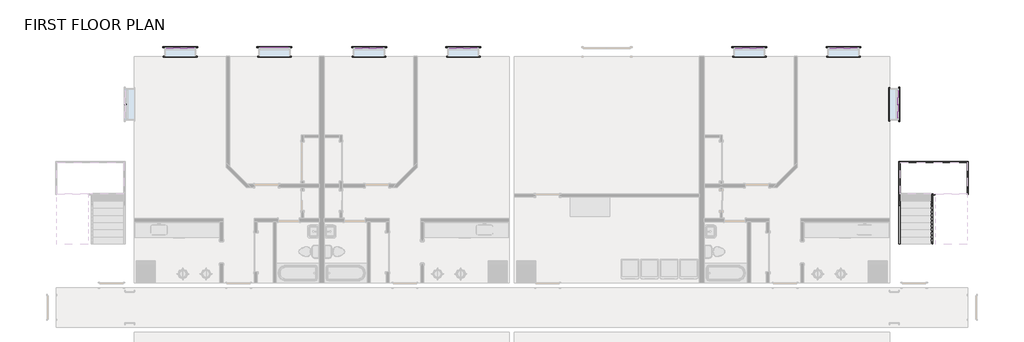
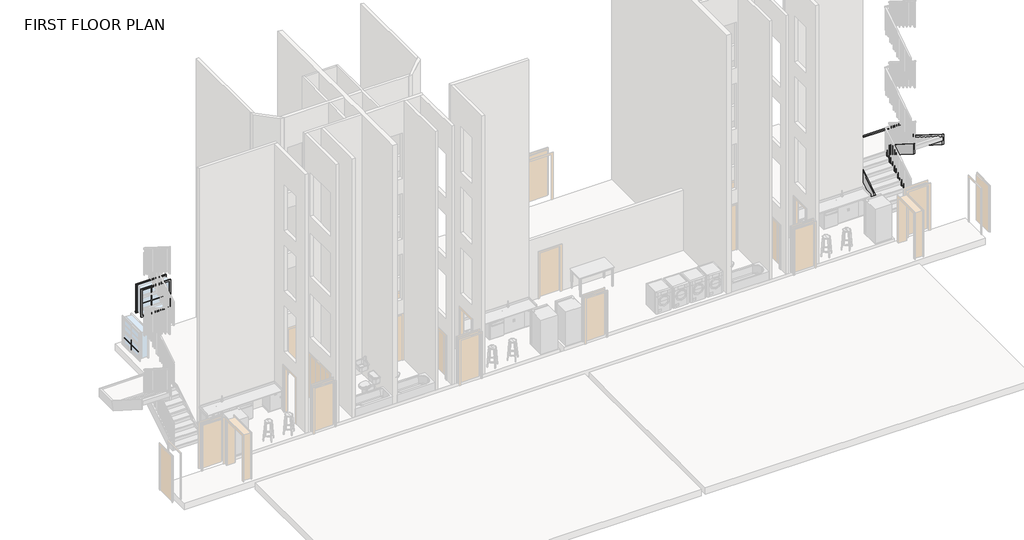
# One storey, part 7 of 7: 29 proxies, 8 members.
"""IFC4 building model written with IfcOpenShell, lengths in millimetres."""

from ifc_helpers import new_model, si_unit, frame, origin, place, context, project, spatial, polyline, outline, extrude, faceted_brep, transform, mapped, element, save
from components import muntin_pattern_2x2_muntin_pattern_2x2_c44f4804, muntin_pattern_2x2_muntin_pattern_2x2_05dfa543, muntin_pattern_2x2_muntin_pattern_2x2_770224b8, muntin_pattern_2x2_muntin_pattern_2x2_cf99dd86, trim_window_exterior_flat_with_sill_7cfdd449, trim_window_exterior_flat_with_sill_ac84ebb5, trim_window_interior_flat_picture_frame_f1e0b15b, trim_window_interior_flat_picture_frame_caf2db4f

model = new_model("IFC4")

# Units and contexts
model_context = context("Model", 3, world=origin())
ifc_project = project(units=[si_unit("LENGTHUNIT", "METRE", prefix="MILLI")], contexts=[model_context])

# Site, building, storey
site = spatial("IfcSite", under=ifc_project)
building = spatial("IfcBuilding", under=site)
storey = spatial("IfcBuildingStorey", under=building, Name="FIRST FLOOR PLAN", Elevation=0.0)

# Proxies
placement = place(None, origin())
muntin_pattern_2x2_muntin_pattern_2x2_shape = muntin_pattern_2x2_muntin_pattern_2x2_c44f4804(model_context)
element("IfcBuildingElementProxy", 1, Name="Muntin Pattern_2x2 : Muntin Pattern_2x2", ObjectType="Muntin Pattern_2x2 : Muntin Pattern_2x2", at=placement, inside=storey, context=model_context, shape_type="MappedRepresentation", body=[
    mapped(muntin_pattern_2x2_muntin_pattern_2x2_shape, transform((-3399.0477625, 15644.6887881, 1593.85), x_axis=(1.0, 0.0, 0.0), y_axis=(0.0, 1.0, 0.0), z_axis=(0.0, 0.0, 1.0))),
])
element("IfcBuildingElementProxy", 2, Name="Muntin Pattern_2x2 : Muntin Pattern_2x2", ObjectType="Muntin Pattern_2x2 : Muntin Pattern_2x2", at=placement, inside=storey, context=model_context, shape_type="MappedRepresentation", body=[
    mapped(muntin_pattern_2x2_muntin_pattern_2x2_shape, transform((271.9647375, 15644.6887881, 1593.85), x_axis=(1.0, 0.0, 0.0), y_axis=(0.0, 1.0, 0.0), z_axis=(0.0, 0.0, 1.0))),
])
muntin_pattern_2x2_muntin_pattern_2x2_2_shape = muntin_pattern_2x2_muntin_pattern_2x2_05dfa543(model_context)
element("IfcBuildingElementProxy", 3, Name="Muntin Pattern_2x2 : Muntin Pattern_2x2", ObjectType="Muntin Pattern_2x2 : Muntin Pattern_2x2", at=placement, inside=storey, context=model_context, shape_type="MappedRepresentation", body=[
    mapped(muntin_pattern_2x2_muntin_pattern_2x2_2_shape, transform((-5537.3665125, 13431.007194, 984.25), x_axis=(0.0, 1.0, 0.0), y_axis=(-1.0, 0.0, 0.0), z_axis=(0.0, 0.0, 1.0))),
])
element("IfcBuildingElementProxy", 4, Name="Muntin Pattern_2x2 : Muntin Pattern_2x2", ObjectType="Muntin Pattern_2x2 : Muntin Pattern_2x2", at=placement, inside=storey, context=model_context, shape_type="MappedRepresentation", body=[
    mapped(muntin_pattern_2x2_muntin_pattern_2x2_2_shape, transform((-3399.0477625, 15644.6887881, 984.25), x_axis=(1.0, 0.0, 0.0), y_axis=(0.0, 1.0, 0.0), z_axis=(0.0, 0.0, 1.0))),
])
element("IfcBuildingElementProxy", 5, Name="Muntin Pattern_2x2 : Muntin Pattern_2x2", ObjectType="Muntin Pattern_2x2 : Muntin Pattern_2x2", at=placement, inside=storey, context=model_context, shape_type="MappedRepresentation", body=[
    mapped(muntin_pattern_2x2_muntin_pattern_2x2_2_shape, transform((271.9647375, 15644.6887881, 984.25), x_axis=(1.0, 0.0, 0.0), y_axis=(0.0, 1.0, 0.0), z_axis=(0.0, 0.0, 1.0))),
])
muntin_pattern_2x2_muntin_pattern_2x2_3_shape = muntin_pattern_2x2_muntin_pattern_2x2_770224b8(model_context)
element("IfcBuildingElementProxy", 6, Name="Muntin Pattern_2x2 : Muntin Pattern_2x2", ObjectType="Muntin Pattern_2x2 : Muntin Pattern_2x2", at=placement, inside=storey, context=model_context, shape_type="MappedRepresentation", body=[
    mapped(muntin_pattern_2x2_muntin_pattern_2x2_3_shape, transform((7635.6647375, 15644.6887881, 1593.85), x_axis=(-1.0, 0.0, 0.0), y_axis=(0.0, -1.0, 0.0), z_axis=(0.0, 0.0, 1.0))),
])
element("IfcBuildingElementProxy", 7, Name="Muntin Pattern_2x2 : Muntin Pattern_2x2", ObjectType="Muntin Pattern_2x2 : Muntin Pattern_2x2", at=placement, inside=storey, context=model_context, shape_type="MappedRepresentation", body=[
    mapped(muntin_pattern_2x2_muntin_pattern_2x2_3_shape, transform((3964.6522375, 15644.6887881, 1593.85), x_axis=(-1.0, 0.0, 0.0), y_axis=(0.0, -1.0, 0.0), z_axis=(0.0, 0.0, 1.0))),
])
element("IfcBuildingElementProxy", 8, Name="Muntin Pattern_2x2 : Muntin Pattern_2x2", ObjectType="Muntin Pattern_2x2 : Muntin Pattern_2x2", at=placement, inside=storey, context=model_context, shape_type="MappedRepresentation", body=[
    mapped(muntin_pattern_2x2_muntin_pattern_2x2_3_shape, transform((24597.5834875, 13431.007194, 1593.85), x_axis=(0.0, 1.0, 0.0), y_axis=(-1.0, 0.0, 0.0), z_axis=(0.0, 0.0, 1.0))),
])
element("IfcBuildingElementProxy", 9, Name="Muntin Pattern_2x2 : Muntin Pattern_2x2", ObjectType="Muntin Pattern_2x2 : Muntin Pattern_2x2", at=placement, inside=storey, context=model_context, shape_type="MappedRepresentation", body=[
    mapped(muntin_pattern_2x2_muntin_pattern_2x2_3_shape, transform((22460.0647375, 15644.6887881, 1593.85), x_axis=(-1.0, 0.0, 0.0), y_axis=(0.0, -1.0, 0.0), z_axis=(0.0, 0.0, 1.0))),
])
element("IfcBuildingElementProxy", 10, Name="Muntin Pattern_2x2 : Muntin Pattern_2x2", ObjectType="Muntin Pattern_2x2 : Muntin Pattern_2x2", at=placement, inside=storey, context=model_context, shape_type="MappedRepresentation", body=[
    mapped(muntin_pattern_2x2_muntin_pattern_2x2_3_shape, transform((18789.0522375, 15644.6887881, 1593.85), x_axis=(-1.0, 0.0, 0.0), y_axis=(0.0, -1.0, 0.0), z_axis=(0.0, 0.0, 1.0))),
])
muntin_pattern_2x2_muntin_pattern_2x2_4_shape = muntin_pattern_2x2_muntin_pattern_2x2_cf99dd86(model_context)
element("IfcBuildingElementProxy", 11, Name="Muntin Pattern_2x2 : Muntin Pattern_2x2", ObjectType="Muntin Pattern_2x2 : Muntin Pattern_2x2", at=placement, inside=storey, context=model_context, shape_type="MappedRepresentation", body=[
    mapped(muntin_pattern_2x2_muntin_pattern_2x2_4_shape, transform((7635.6647375, 15644.6887881, 984.25), x_axis=(-1.0, 0.0, 0.0), y_axis=(0.0, -1.0, 0.0), z_axis=(0.0, 0.0, 1.0))),
])
element("IfcBuildingElementProxy", 12, Name="Muntin Pattern_2x2 : Muntin Pattern_2x2", ObjectType="Muntin Pattern_2x2 : Muntin Pattern_2x2", at=placement, inside=storey, context=model_context, shape_type="MappedRepresentation", body=[
    mapped(muntin_pattern_2x2_muntin_pattern_2x2_4_shape, transform((3964.6522375, 15644.6887881, 984.25), x_axis=(-1.0, 0.0, 0.0), y_axis=(0.0, -1.0, 0.0), z_axis=(0.0, 0.0, 1.0))),
])
element("IfcBuildingElementProxy", 13, Name="Muntin Pattern_2x2 : Muntin Pattern_2x2", ObjectType="Muntin Pattern_2x2 : Muntin Pattern_2x2", at=placement, inside=storey, context=model_context, shape_type="MappedRepresentation", body=[
    mapped(muntin_pattern_2x2_muntin_pattern_2x2_4_shape, transform((24597.5834875, 13431.007194, 984.25), x_axis=(0.0, 1.0, 0.0), y_axis=(-1.0, 0.0, 0.0), z_axis=(0.0, 0.0, 1.0))),
])
element("IfcBuildingElementProxy", 14, Name="Muntin Pattern_2x2 : Muntin Pattern_2x2", ObjectType="Muntin Pattern_2x2 : Muntin Pattern_2x2", at=placement, inside=storey, context=model_context, shape_type="MappedRepresentation", body=[
    mapped(muntin_pattern_2x2_muntin_pattern_2x2_4_shape, transform((22460.0647375, 15644.6887881, 984.25), x_axis=(-1.0, 0.0, 0.0), y_axis=(0.0, -1.0, 0.0), z_axis=(0.0, 0.0, 1.0))),
])
element("IfcBuildingElementProxy", 15, Name="Muntin Pattern_2x2 : Muntin Pattern_2x2", ObjectType="Muntin Pattern_2x2 : Muntin Pattern_2x2", at=placement, inside=storey, context=model_context, shape_type="MappedRepresentation", body=[
    mapped(muntin_pattern_2x2_muntin_pattern_2x2_4_shape, transform((18789.0522375, 15644.6887881, 984.25), x_axis=(-1.0, 0.0, 0.0), y_axis=(0.0, -1.0, 0.0), z_axis=(0.0, 0.0, 1.0))),
])
trim_window_exterior_flat_with_sill_shape = trim_window_exterior_flat_with_sill_7cfdd449(model_context)
element("IfcBuildingElementProxy", 16, Name="Trim-Window-Exterior-Flat : with Sill", ObjectType="Trim-Window-Exterior-Flat : with Sill", at=placement, inside=storey, context=model_context, shape_type="MappedRepresentation", body=[
    mapped(trim_window_exterior_flat_with_sill_shape, transform((-3399.0477625, 15654.2137881, 2133.6), x_axis=(-1.0, 0.0, 0.0), y_axis=(0.0, 0.0, 1.0), z_axis=(0.0, 1.0, 0.0))),
])
element("IfcBuildingElementProxy", 17, Name="Trim-Window-Exterior-Flat : with Sill", ObjectType="Trim-Window-Exterior-Flat : with Sill", at=placement, inside=storey, context=model_context, shape_type="MappedRepresentation", body=[
    mapped(trim_window_exterior_flat_with_sill_shape, transform((271.9647375, 15654.2137881, 2133.6), x_axis=(-1.0, 0.0, 0.0), y_axis=(0.0, 0.0, 1.0), z_axis=(0.0, 1.0, 0.0))),
])
trim_window_exterior_flat_with_sill_2_shape = trim_window_exterior_flat_with_sill_ac84ebb5(model_context)
element("IfcBuildingElementProxy", 18, Name="Trim-Window-Exterior-Flat : with Sill", ObjectType="Trim-Window-Exterior-Flat : with Sill", at=placement, inside=storey, context=model_context, shape_type="MappedRepresentation", body=[
    mapped(trim_window_exterior_flat_with_sill_2_shape, transform((7635.6647375, 15654.2137881, 2133.6), x_axis=(1.0, 0.0, 0.0), y_axis=(0.0, 0.0, -1.0), z_axis=(0.0, 1.0, 0.0))),
])
element("IfcBuildingElementProxy", 19, Name="Trim-Window-Exterior-Flat : with Sill", ObjectType="Trim-Window-Exterior-Flat : with Sill", at=placement, inside=storey, context=model_context, shape_type="MappedRepresentation", body=[
    mapped(trim_window_exterior_flat_with_sill_2_shape, transform((3964.6522375, 15654.2137881, 2133.6), x_axis=(1.0, 0.0, 0.0), y_axis=(0.0, 0.0, -1.0), z_axis=(0.0, 1.0, 0.0))),
])
element("IfcBuildingElementProxy", 20, Name="Trim-Window-Exterior-Flat : with Sill", ObjectType="Trim-Window-Exterior-Flat : with Sill", at=placement, inside=storey, context=model_context, shape_type="MappedRepresentation", body=[
    mapped(trim_window_exterior_flat_with_sill_2_shape, transform((24607.1084875, 13431.007194, 2133.6), x_axis=(0.0, -1.0, 0.0), y_axis=(0.0, 0.0, -1.0), z_axis=(1.0, 0.0, 0.0))),
])
element("IfcBuildingElementProxy", 21, Name="Trim-Window-Exterior-Flat : with Sill", ObjectType="Trim-Window-Exterior-Flat : with Sill", at=placement, inside=storey, context=model_context, shape_type="MappedRepresentation", body=[
    mapped(trim_window_exterior_flat_with_sill_2_shape, transform((22460.0647375, 15654.2137881, 2133.6), x_axis=(1.0, 0.0, 0.0), y_axis=(0.0, 0.0, -1.0), z_axis=(0.0, 1.0, 0.0))),
])
element("IfcBuildingElementProxy", 22, Name="Trim-Window-Exterior-Flat : with Sill", ObjectType="Trim-Window-Exterior-Flat : with Sill", at=placement, inside=storey, context=model_context, shape_type="MappedRepresentation", body=[
    mapped(trim_window_exterior_flat_with_sill_2_shape, transform((18789.0522375, 15654.2137881, 2133.6), x_axis=(1.0, 0.0, 0.0), y_axis=(0.0, 0.0, -1.0), z_axis=(0.0, 1.0, 0.0))),
])
trim_window_interior_flat_picture_frame_shape = trim_window_interior_flat_picture_frame_f1e0b15b(model_context)
element("IfcBuildingElementProxy", 23, Name="Trim-Window-Interior-Flat : Picture Frame", ObjectType="Trim-Window-Interior-Flat : Picture Frame", at=placement, inside=storey, context=model_context, shape_type="MappedRepresentation", body=[
    mapped(trim_window_interior_flat_picture_frame_shape, transform((-3399.0477625, 15304.2137881, 2133.6), x_axis=(1.0, 0.0, 0.0), y_axis=(0.0, 0.0, 1.0), z_axis=(0.0, -1.0, 0.0))),
])
element("IfcBuildingElementProxy", 24, Name="Trim-Window-Interior-Flat : Picture Frame", ObjectType="Trim-Window-Interior-Flat : Picture Frame", at=placement, inside=storey, context=model_context, shape_type="MappedRepresentation", body=[
    mapped(trim_window_interior_flat_picture_frame_shape, transform((271.9647375, 15304.2137881, 2133.6), x_axis=(1.0, 0.0, 0.0), y_axis=(0.0, 0.0, 1.0), z_axis=(0.0, -1.0, 0.0))),
])
trim_window_interior_flat_picture_frame_2_shape = trim_window_interior_flat_picture_frame_caf2db4f(model_context)
element("IfcBuildingElementProxy", 25, Name="Trim-Window-Interior-Flat : Picture Frame", ObjectType="Trim-Window-Interior-Flat : Picture Frame", at=placement, inside=storey, context=model_context, shape_type="MappedRepresentation", body=[
    mapped(trim_window_interior_flat_picture_frame_2_shape, transform((7635.6647375, 15304.2137881, 2133.6), x_axis=(-1.0, 0.0, 0.0), y_axis=(0.0, 0.0, -1.0), z_axis=(0.0, -1.0, 0.0))),
])
element("IfcBuildingElementProxy", 26, Name="Trim-Window-Interior-Flat : Picture Frame", ObjectType="Trim-Window-Interior-Flat : Picture Frame", at=placement, inside=storey, context=model_context, shape_type="MappedRepresentation", body=[
    mapped(trim_window_interior_flat_picture_frame_2_shape, transform((3964.6522375, 15304.2137881, 2133.6), x_axis=(-1.0, 0.0, 0.0), y_axis=(0.0, 0.0, -1.0), z_axis=(0.0, -1.0, 0.0))),
])
element("IfcBuildingElementProxy", 27, Name="Trim-Window-Interior-Flat : Picture Frame", ObjectType="Trim-Window-Interior-Flat : Picture Frame", at=placement, inside=storey, context=model_context, shape_type="MappedRepresentation", body=[
    mapped(trim_window_interior_flat_picture_frame_2_shape, transform((24257.1084875, 13431.007194, 2133.6), x_axis=(0.0, 1.0, 0.0), y_axis=(0.0, 0.0, -1.0), z_axis=(-1.0, 0.0, 0.0))),
])
element("IfcBuildingElementProxy", 28, Name="Trim-Window-Interior-Flat : Picture Frame", ObjectType="Trim-Window-Interior-Flat : Picture Frame", at=placement, inside=storey, context=model_context, shape_type="MappedRepresentation", body=[
    mapped(trim_window_interior_flat_picture_frame_2_shape, transform((22460.0647375, 15304.2137881, 2133.6), x_axis=(-1.0, 0.0, 0.0), y_axis=(0.0, 0.0, -1.0), z_axis=(0.0, -1.0, 0.0))),
])
element("IfcBuildingElementProxy", 29, Name="Trim-Window-Interior-Flat : Picture Frame", ObjectType="Trim-Window-Interior-Flat : Picture Frame", at=placement, inside=storey, context=model_context, shape_type="MappedRepresentation", body=[
    mapped(trim_window_interior_flat_picture_frame_2_shape, transform((18789.0522375, 15304.2137881, 2133.6), x_axis=(-1.0, 0.0, 0.0), y_axis=(0.0, 0.0, -1.0), z_axis=(0.0, -1.0, 0.0))),
])

# Members
element("IfcMember", 30, ObjectType="Stringer - 2\" Width", at=placement, inside=storey, context=model_context, shape_type="SweptSolid", body=[
    extrude(outline(polyline([(7982.0006, 0.0), (7982.0006, 242.186802), (9887.0006, 1454.4595293), (9887.0006, 972.749737), (8358.3938705, 0.0), (7982.0006, 0.0)])), frame((25887.1084875, 0.0, 0.0), z_axis=(1.0, 0.0, 0.0), x_axis=(0.0, 1.0, 0.0)), (0.0, 0.0, 1.0), 50.8),
])
element("IfcMember", 31, ObjectType="Stringer - 2\" Width", at=placement, inside=storey, context=model_context, shape_type="SweptSolid", body=[
    extrude(outline(polyline([(7982.0006, 0.0), (7982.0006, 242.186802), (9916.4499112, 1473.2), (10034.7938705, 1066.8), (8358.3938705, 0.0), (7982.0006, 0.0)])), frame((24617.1084875, 0.0, 0.0), z_axis=(1.0, 0.0, 0.0), x_axis=(0.0, 1.0, 0.0)), (0.0, 0.0, 1.0), 50.8),
])
element("IfcMember", 32, ObjectType="Stringer - 2\" Width", at=placement, inside=storey, context=model_context, shape_type="SweptSolid", body=[
    extrude(outline(polyline([(9937.8006, 1664.586802), (9937.8006, 1182.8770097), (7982.0006, 2427.4770097), (7982.0006, 2909.186802), (9937.8006, 1664.586802)])), frame((26013.4237309, 0.0, 0.0), z_axis=(1.0, 0.0, 0.0), x_axis=(0.0, 1.0, 0.0)), (0.0, 0.0, 1.0), 50.8),
])
element("IfcMember", 33, ObjectType="Stringer - 2\" Width", at=placement, inside=storey, context=model_context, shape_type="SweptSolid", body=[
    extrude(outline(polyline([(10238.5512889, 1473.2), (10120.2073296, 1066.8), (7982.0006, 2427.4770097), (7982.0006, 2909.186802), (10238.5512889, 1473.2)])), frame((27283.4237309, 0.0, 0.0), z_axis=(1.0, 0.0, 0.0), x_axis=(0.0, 1.0, 0.0)), (0.0, 0.0, 1.0), 50.8),
])
element("IfcMember", 34, ObjectType="Stringer - 2\" Width", at=placement, inside=storey, context=model_context, shape_type="SweptSolid", body=[
    extrude(outline(polyline([(25887.1084875, 9887.0006), (25887.1084875, 9937.8006), (26013.4237309, 9937.8006), (26013.4237309, 9887.0006), (25887.1084875, 9887.0006)])), frame((0.0, 0.0, 1066.8), z_axis=(0.0, 0.0, 1.0), x_axis=(1.0, 0.0, 0.0)), (0.0, 0.0, 1.0), 406.4),
])
element("IfcMember", 35, ObjectType="Stringer - 2\" Width", at=placement, inside=storey, context=model_context, shape_type="Brep", body=[
    faceted_brep([(24667.9084875, 11157.0006, 1473.2), (24617.1084875, 11207.8006, 1473.2), (24617.1084875, 9916.4499112, 1473.2), (24667.9084875, 9916.4499112, 1473.2), (24667.9084875, 11157.0006, 1066.8), (24667.9084875, 10034.7938705, 1066.8), (24617.1084875, 11207.8006, 1066.8), (24617.1084875, 10034.7938705, 1066.8)], [[[0, 1, 2, 3]], [[4, 0, 3, 5]], [[6, 4, 5, 7]], [[1, 6, 7, 2]], [[1, 0, 4, 6]], [[2, 7, 5, 3]]]),
])
element("IfcMember", 36, ObjectType="Stringer - 2\" Width", at=placement, inside=storey, context=model_context, shape_type="SweptSolid", body=[
    extrude(outline(polyline([(27334.2237309, 11207.8006), (27283.4237309, 11157.0006), (24667.9084875, 11157.0006), (24617.1084875, 11207.8006), (27334.2237309, 11207.8006)])), frame((0.0, 0.0, 1066.8), z_axis=(0.0, 0.0, 1.0), x_axis=(1.0, 0.0, 0.0)), (0.0, 0.0, 1.0), 406.4),
])
element("IfcMember", 37, ObjectType="Stringer - 2\" Width", at=placement, inside=storey, context=model_context, shape_type="Brep", body=[
    faceted_brep([(27283.4237309, 10238.5512889, 1473.2), (27334.2237309, 10238.5512889, 1473.2), (27334.2237309, 11207.8006, 1473.2), (27283.4237309, 11157.0006, 1473.2), (27283.4237309, 10120.2073296, 1066.8), (27283.4237309, 11157.0006, 1066.8), (27334.2237309, 10120.2073296, 1066.8), (27334.2237309, 11207.8006, 1066.8)], [[[0, 1, 2, 3]], [[4, 0, 3, 5]], [[6, 4, 5, 7]], [[1, 6, 7, 2]], [[1, 0, 4, 6]], [[2, 7, 5, 3]]]),
])

save(model, "model.ifc")
